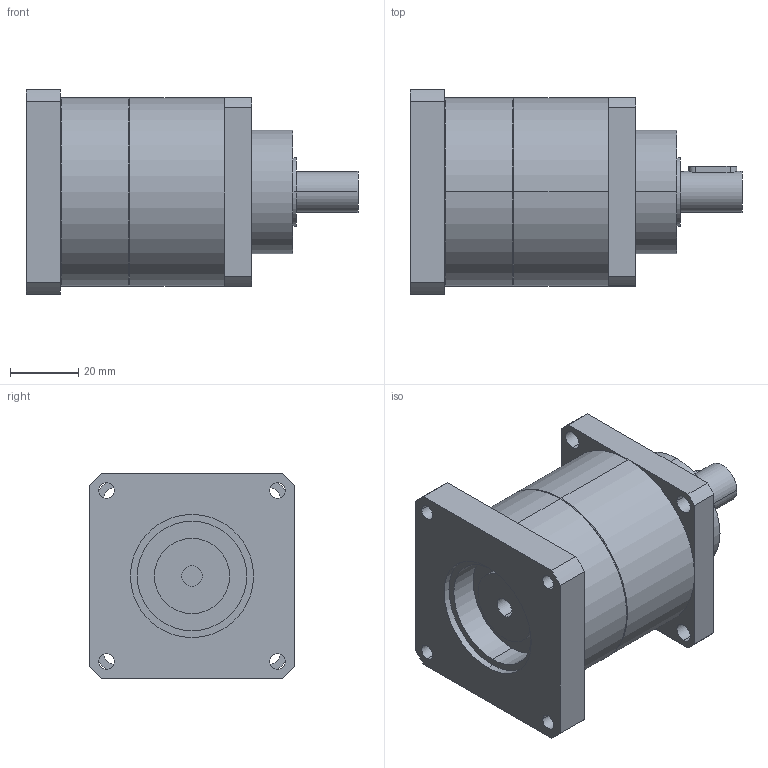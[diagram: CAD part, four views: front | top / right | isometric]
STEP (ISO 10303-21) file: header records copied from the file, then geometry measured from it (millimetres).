
FILE_DESCRIPTION(('CoCreate Modeling STEP Export'),'2;1');
FILE_NAME('GPT55_ig-3-4-5-7-10_12_B5A_6_P22.stp','2014-08-25T14:32:57',(''),(''),'CoCreate Modeling STEP processor for AP214 (Solid Model)','CoCreate Modeling 16.00C 25-Feb-2009 (C) Parametric Technology GmbH','');
FILE_SCHEMA(('AUTOMOTIVE_DESIGN { 1 0 10303 214 1 1 1 1 }'));
Length unit declared in the file: millimetre
Products named in the file (2): GPT55_ig-3-4-5-7-10_12_B5A_6_P22
Assembly tree (1 placements, depth 2):
  GPT55_ig-3-4-5-7-10_12_B5A_6_P22
    GPT55_ig-3-4-5-7-10_12_B5A_6_P22
Bounding box: 97 x 60 x 60 mm (x, y, z)
Volume: 179014.5 mm3; surface area: 25639.5 mm2
Topology: 1 solids, 1 shells, 77 faces, 204 edges, 139 vertices
Faces by surface type: cylinder 46, plane 27, cone 4
Entity records: 2515 total; most frequent: CARTESIAN_POINT 710, ORIENTED_EDGE 408, DIRECTION 318, EDGE_CURVE 204, VERTEX_POINT 139, AXIS2_PLACEMENT_3D 117, EDGE_LOOP 103, VECTOR 84
